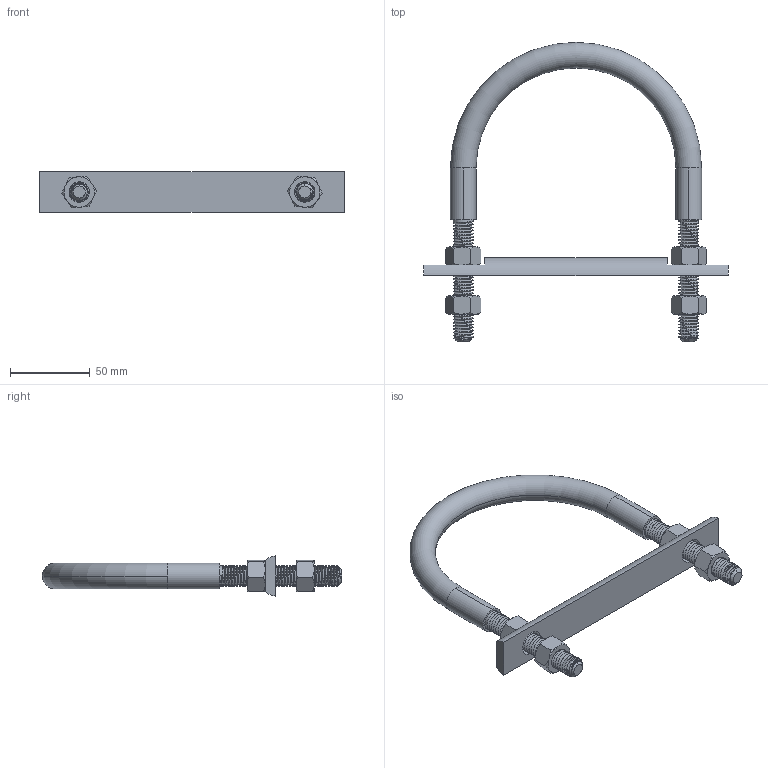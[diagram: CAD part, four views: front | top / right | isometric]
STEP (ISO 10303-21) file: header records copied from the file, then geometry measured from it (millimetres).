
FILE_DESCRIPTION (( 'STEP AP214' ), '1' );
FILE_NAME ('NUB1467.STEP', '2022-04-04T17:03:01', ( '' ), ( '' ), 'SwSTEP 2.0', 'SolidWorks 2021', '' );
FILE_SCHEMA (( 'AUTOMOTIVE_DESIGN' ));
Length unit declared in the file: inch
Products named in the file (4): NUB1467; UBT0994_UBT14-4-0.5-13 XL [NUB1467]; ROD0641_IR13-4 XL [ROD0641]; FAS0046
Assembly tree (6 placements, depth 2):
  NUB1467
    FAS0046  x4
    UBT0994_UBT14-4-0.5-13 XL [NUB1467]
    ROD0641_IR13-4 XL [ROD0641]
Bounding box: 190.5 x 187.42 x 25.27 mm (x, y, z)
Volume: 122060 mm3; surface area: 66466.1 mm2
Topology: 7 solids, 7 shells, 314 faces, 812 edges, 512 vertices
Faces by surface type: cylinder 181, cone 78, plane 45, torus 6, bspline 4
Entity records: 17643 total; most frequent: CARTESIAN_POINT 12449, ORIENTED_EDGE 1240, DIRECTION 818, EDGE_CURVE 620, VERTEX_POINT 404, AXIS2_PLACEMENT_3D 307, EDGE_LOOP 232, ADVANCED_FACE 224
